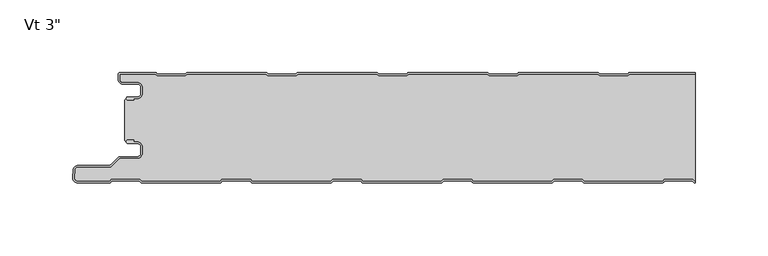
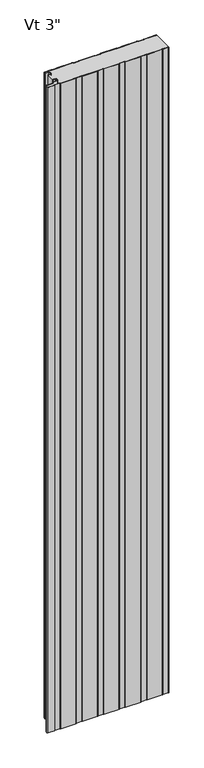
"""IFC4 building model written with IfcOpenShell, lengths in millimetres: plate geometry."""

from ifc_helpers import new_model, si_unit, point, frame, frame_2d, origin, origin_with_axes, place, context, project, spatial, polyline, circle_curve, trimmed, segment, composite_curve, outline, extrude, source, transform, mapped, element, save
from ifc_brep_helpers import plane_surface, cylinder_surface, revolved_surface, advanced_brep


def plate_2f6834ce(model_context):
    return source(origin(), model_context, "Body", "SolidModel", [
        advanced_brep(
        [(-194.5686911, -17.0015405, 2400.0), (-195.5686883, -18.0015437, 2400.0), (-194.5686911, -19.0015351, 2400.0), (-190.5684874, -19.0015351, 2400.0), (-190.5684874, -18.0015405, 2400.0), (-187.8762776, -18.0015405, 2400.0), (-184.5762819, -14.7015448, 2400.0), (-184.5762819, -10.3015536, 2400.0), (-187.8762774, -7.0015581, 2400.0), (-198.2962563, -7.0015581, 2400.0), (-200.0662505, -5.2315639, 2400.0), (-200.0662505, -1.0000163, 2400.0), (-175.5659739, -1.0000162, 2400.0), (-174.1803313, -2.2002553, 2400.0), (-154.805165, -2.2002553, 2400.0), (-153.419532, -1.0000245, 2400.0), (-99.3661167, -1.0000245, 2400.0), (-97.9804837, -2.2002552, 2400.0), (-78.6053174, -2.2002551, 2400.0), (-77.2196844, -1.0000244, 2400.0), (-23.1662691, -1.0000243, 2400.0), (-21.7806361, -2.200255, 2400.0), (-2.4054698, -2.200255, 2400.0), (-1.0198368, -1.0000243, 2400.0), (53.0335785, -1.0000242, 2400.0), (54.4192115, -2.2002549, 2400.0), (73.7943778, -2.2002548, 2400.0), (75.1800108, -1.0000241, 2400.0), (129.2334261, -1.000024, 2400.0), (130.6190591, -2.2002547, 2400.0), (149.9942254, -2.2002547, 2400.0), (151.3798584, -1.000024, 2400.0), (196.5999998, -1.0000239, 2400.0), (196.5999998, -2.39e-05, 2400.0), (151.5290095, -2.4e-05, 2400.0), (150.6123926, -0.3418125, 2400.0), (149.621345, -1.2002547, 2400.0), (130.9919395, -1.2002547, 2400.0), (130.0008919, -0.3418125, 2400.0), (129.084275, -2.4e-05, 2400.0), (75.3291619, -2.41e-05, 2400.0), (74.412545, -0.3418126, 2400.0), (73.4214974, -1.2002548, 2400.0), (54.7920919, -1.2002549, 2400.0), (53.8010443, -0.3418127, 2400.0), (52.8844274, -2.42e-05, 2400.0), (-0.8706857, -2.43e-05, 2400.0), (-1.7873026, -0.3418128, 2400.0), (-2.7783502, -1.200255, 2400.0), (-21.4077557, -1.200255, 2400.0), (-22.3988033, -0.3418128, 2400.0), (-23.3154202, -2.43e-05, 2400.0), (-77.0705333, -2.44e-05, 2400.0), (-77.9871502, -0.3418129, 2400.0), (-78.9781978, -1.2002551, 2400.0), (-97.6076033, -1.2002552, 2400.0), (-98.5986509, -0.341813, 2400.0), (-99.5152678, -2.44e-05, 2400.0), (-153.2703809, -2.45e-05, 2400.0), (-154.1869978, -0.3418131, 2400.0), (-155.1780454, -1.2002553, 2400.0), (-173.8074509, -1.2002553, 2400.0), (-174.7984985, -0.3418131, 2400.0), (-175.7152068, -2.46e-05, 2400.0), (-199.6662544, -1.63e-05, 2400.0), (-201.0662505, -1.4000124, 2400.0), (-201.0662505, -5.2315639, 2400.0), (-198.2962563, -8.0015581, 2400.0), (-187.8762774, -8.0015581, 2400.0), (-185.5762819, -10.3015536, 2400.0), (-185.5762819, -14.7015448, 2400.0), (-187.8762776, -17.0015405, 2400.0), (-194.5686911, -17.0015405, 0.0), (-187.8762776, -17.0015405, 0.0), (-185.5762819, -14.7015448, 0.0), (-185.5762819, -10.3015536, 0.0), (-187.8762774, -8.0015581, 0.0), (-198.2962563, -8.0015581, 0.0), (-201.0662505, -5.2315639, 0.0), (-201.0662505, -1.4000124, 0.0), (-199.6662544, -1.63e-05, 0.0), (-175.7151154, -1.62e-05, 0.0), (-174.7984985, -0.3418131, 0.0), (-173.8074509, -1.2002553, 0.0), (-155.1780454, -1.2002553, 0.0), (-154.1869978, -0.3418131, 0.0), (-153.2703809, -2.45e-05, 0.0), (-99.5152678, -2.45e-05, 0.0), (-98.5986509, -0.341813, 0.0), (-97.6076033, -1.2002552, 0.0), (-78.9781978, -1.2002551, 0.0), (-77.9871502, -0.3418129, 0.0), (-77.0705333, -2.44e-05, 0.0), (-23.3154202, -2.43e-05, 0.0), (-22.3988033, -0.3418128, 0.0), (-21.4077557, -1.200255, 0.0), (-2.7783502, -1.200255, 0.0), (-1.7873026, -0.3418128, 0.0), (-0.8706857, -2.43e-05, 0.0), (52.8844274, -2.42e-05, 0.0), (53.8010443, -0.3418127, 0.0), (54.7920919, -1.2002549, 0.0), (73.4214974, -1.2002548, 0.0), (74.412545, -0.3418126, 0.0), (75.3291619, -2.41e-05, 0.0), (129.084275, -2.4e-05, 0.0), (130.0008919, -0.3418125, 0.0), (130.9919395, -1.2002547, 0.0), (149.621345, -1.2002547, 0.0), (150.6123926, -0.3418125, 0.0), (151.5290095, -2.4e-05, 0.0), (196.5999998, -2.39e-05, 0.0), (196.5999998, -1.0000239, 0.0), (151.3798584, -1.000024, 0.0), (149.9942254, -2.2002547, 0.0), (130.6190591, -2.2002547, 0.0), (129.2334261, -1.000024, 0.0), (75.1800108, -1.0000241, 0.0), (73.7943778, -2.2002548, 0.0), (54.4192115, -2.2002549, 0.0), (53.0335785, -1.0000242, 0.0), (-1.0198368, -1.0000243, 0.0), (-2.4054698, -2.200255, 0.0), (-21.7806361, -2.200255, 0.0), (-23.1662691, -1.0000243, 0.0), (-77.2196844, -1.0000244, 0.0), (-78.6053174, -2.2002551, 0.0), (-97.9804837, -2.2002552, 0.0), (-99.3661167, -1.0000245, 0.0), (-153.419532, -1.0000245, 0.0), (-154.805165, -2.2002553, 0.0), (-174.1803313, -2.2002553, 0.0), (-175.5659739, -1.0000162, 0.0), (-200.0662505, -1.0000163, 0.0), (-200.0662505, -5.2315639, 0.0), (-198.2962563, -7.0015581, 0.0), (-187.8762774, -7.0015581, 0.0), (-184.5762819, -10.3015536, 0.0), (-184.5762819, -14.7015448, 0.0), (-187.8762776, -18.0015405, 0.0), (-190.5684874, -18.0015405, 0.0), (-190.5684874, -19.0015351, 0.0), (-194.5686911, -19.0015351, 0.0), (-195.5686883, -18.0015438, 0.0)],
        [
            (0, 1, circle_curve(frame((-194.5686911, -18.0015378, 2400.0), z_axis=(0.0, 0.0, 1.0), x_axis=(1.0, 1.7886562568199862e-09, 0.0)), 0.9999973)),
            (1, 2, circle_curve(frame((-194.5686911, -18.0015379, 2400.0), z_axis=(0.0, 0.0, 1.0), x_axis=(1.0, 1.7886562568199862e-09, 0.0)), 0.9999972)),
            (2, 3),
            (3, 4),
            (4, 5),
            (5, 6, circle_curve(frame((-187.8762776, -14.7015448, 2400.0), z_axis=(0.0, 0.0, 1.0), x_axis=(1.0, 1.7886562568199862e-09, 0.0)), 3.2999957)),
            (6, 7),
            (7, 8, circle_curve(frame((-187.8762774, -10.3015536, 2400.0), z_axis=(0.0, 0.0, 1.0), x_axis=(1.0, 1.7886562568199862e-09, 0.0)), 3.2999955)),
            (8, 9),
            (9, 10, circle_curve(frame((-198.2962563, -5.2315639, 2400.0), z_axis=(0.0, 0.0, -1.0), x_axis=(1.0, 1.7886562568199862e-09, 0.0)), 1.7699942)),
            (10, 11),
            (11, 12),
            (12, 13),
            (13, 14),
            (14, 15),
            (15, 16),
            (16, 17),
            (17, 18),
            (18, 19),
            (19, 20),
            (20, 21),
            (21, 22),
            (22, 23),
            (23, 24),
            (24, 25),
            (25, 26),
            (26, 27),
            (27, 28),
            (28, 29),
            (29, 30),
            (30, 31),
            (31, 32),
            (32, 33),
            (33, 34),
            (34, 35, circle_curve(frame((151.5290095, -1.4000212, 2400.0), z_axis=(0.0, 0.0, 1.0), x_axis=(1.0, 1.7886562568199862e-09, 0.0)), 1.3999972)),
            (35, 36),
            (36, 37),
            (37, 38),
            (38, 39, circle_curve(frame((129.084275, -1.4000212, 2400.0), z_axis=(0.0, 0.0, 1.0), x_axis=(1.0, 1.7886562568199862e-09, 0.0)), 1.3999972)),
            (39, 40),
            (40, 41, circle_curve(frame((75.3291619, -1.4000213, 2400.0), z_axis=(0.0, 0.0, 1.0), x_axis=(1.0, 1.7886562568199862e-09, 0.0)), 1.3999972)),
            (41, 42),
            (42, 43),
            (43, 44),
            (44, 45, circle_curve(frame((52.8844274, -1.4000214, 2400.0), z_axis=(0.0, 0.0, 1.0), x_axis=(1.0, 1.7886562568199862e-09, 0.0)), 1.3999972)),
            (45, 46),
            (46, 47, circle_curve(frame((-0.8706857, -1.4000215, 2400.0), z_axis=(0.0, 0.0, 1.0), x_axis=(1.0, 1.7886562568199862e-09, 0.0)), 1.3999972)),
            (47, 48),
            (48, 49),
            (49, 50),
            (50, 51, circle_curve(frame((-23.3154202, -1.4000215, 2400.0), z_axis=(0.0, 0.0, 1.0), x_axis=(1.0, 1.7886562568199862e-09, 0.0)), 1.3999972)),
            (51, 52),
            (52, 53, circle_curve(frame((-77.0705333, -1.4000216, 2400.0), z_axis=(0.0, 0.0, 1.0), x_axis=(1.0, 1.7886562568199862e-09, 0.0)), 1.3999972)),
            (53, 54),
            (54, 55),
            (55, 56),
            (56, 57, circle_curve(frame((-99.5152678, -1.4000216, 2400.0), z_axis=(0.0, 0.0, 1.0), x_axis=(1.0, 1.7886562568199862e-09, 0.0)), 1.3999972)),
            (57, 58),
            (58, 59, circle_curve(frame((-153.2703809, -1.4000217, 2400.0), z_axis=(0.0, 0.0, 1.0), x_axis=(1.0, 1.7886562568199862e-09, 0.0)), 1.3999972)),
            (59, 60),
            (60, 61),
            (61, 62),
            (62, 63, circle_curve(frame((-175.7151154, -1.4000218, 2400.0), z_axis=(0.0, 0.0, 1.0), x_axis=(1.0, 1.7886562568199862e-09, 0.0)), 1.3999972)),
            (63, 64),
            (64, 65, circle_curve(frame((-199.6662544, -1.4000124, 2400.0), z_axis=(0.0, 0.0, 1.0), x_axis=(1.0, 1.7886562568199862e-09, 0.0)), 1.3999962)),
            (65, 66),
            (66, 67, circle_curve(frame((-198.2962563, -5.2315639, 2400.0), z_axis=(0.0, 0.0, 1.0), x_axis=(1.0, 1.7886562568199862e-09, 0.0)), 2.7699942)),
            (67, 68),
            (68, 69, circle_curve(frame((-187.8762774, -10.3015536, 2400.0), z_axis=(0.0, 0.0, -1.0), x_axis=(1.0, 1.7886562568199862e-09, 0.0)), 2.2999955)),
            (69, 70),
            (70, 71, circle_curve(frame((-187.8762776, -14.7015448, 2400.0), z_axis=(0.0, 0.0, -1.0), x_axis=(1.0, 1.7886562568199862e-09, 0.0)), 2.2999957)),
            (71, 0),
            (72, 73),
            (73, 74, circle_curve(frame((-187.8762776, -14.7015448, 0.0), z_axis=(0.0, 0.0, 1.0), x_axis=(1.0, 1.7886562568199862e-09, 0.0)), 2.2999957)),
            (74, 75),
            (75, 76, circle_curve(frame((-187.8762774, -10.3015536, 0.0), z_axis=(0.0, 0.0, 1.0), x_axis=(1.0, 1.7886562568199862e-09, 0.0)), 2.2999955)),
            (76, 77),
            (77, 78, circle_curve(frame((-198.2962563, -5.2315639, 0.0), z_axis=(0.0, 0.0, -1.0), x_axis=(1.0, 1.7886562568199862e-09, 0.0)), 2.7699942)),
            (78, 79),
            (79, 80, circle_curve(frame((-199.6662544, -1.4000124, 0.0), z_axis=(0.0, 0.0, -1.0), x_axis=(1.0, 1.7886562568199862e-09, 0.0)), 1.3999962)),
            (80, 81),
            (81, 82, circle_curve(frame((-175.7151154, -1.4000218, 0.0), z_axis=(0.0, 0.0, -1.0), x_axis=(1.0, 1.7886562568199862e-09, 0.0)), 1.3999972)),
            (82, 83),
            (83, 84),
            (84, 85),
            (85, 86, circle_curve(frame((-153.2703809, -1.4000217, 0.0), z_axis=(0.0, 0.0, -1.0), x_axis=(1.0, 1.7886562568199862e-09, 0.0)), 1.3999972)),
            (86, 87),
            (87, 88, circle_curve(frame((-99.5152678, -1.4000216, 0.0), z_axis=(0.0, 0.0, -1.0), x_axis=(1.0, 1.7886562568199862e-09, 0.0)), 1.3999972)),
            (88, 89),
            (89, 90),
            (90, 91),
            (91, 92, circle_curve(frame((-77.0705333, -1.4000216, 0.0), z_axis=(0.0, 0.0, -1.0), x_axis=(1.0, 1.7886562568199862e-09, 0.0)), 1.3999972)),
            (92, 93),
            (93, 94, circle_curve(frame((-23.3154202, -1.4000215, 0.0), z_axis=(0.0, 0.0, -1.0), x_axis=(1.0, 1.7886562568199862e-09, 0.0)), 1.3999972)),
            (94, 95),
            (95, 96),
            (96, 97),
            (97, 98, circle_curve(frame((-0.8706857, -1.4000215, 0.0), z_axis=(0.0, 0.0, -1.0), x_axis=(1.0, 1.7886562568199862e-09, 0.0)), 1.3999972)),
            (98, 99),
            (99, 100, circle_curve(frame((52.8844274, -1.4000214, 0.0), z_axis=(0.0, 0.0, -1.0), x_axis=(1.0, 1.7886562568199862e-09, 0.0)), 1.3999972)),
            (100, 101),
            (101, 102),
            (102, 103),
            (103, 104, circle_curve(frame((75.3291619, -1.4000213, 0.0), z_axis=(0.0, 0.0, -1.0), x_axis=(1.0, 1.7886562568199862e-09, 0.0)), 1.3999972)),
            (104, 105),
            (105, 106, circle_curve(frame((129.084275, -1.4000212, 0.0), z_axis=(0.0, 0.0, -1.0), x_axis=(1.0, 1.7886562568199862e-09, 0.0)), 1.3999972)),
            (106, 107),
            (107, 108),
            (108, 109),
            (109, 110, circle_curve(frame((151.5290095, -1.4000212, 0.0), z_axis=(0.0, 0.0, -1.0), x_axis=(1.0, 1.7886562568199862e-09, 0.0)), 1.3999972)),
            (110, 111),
            (111, 112),
            (112, 113),
            (113, 114),
            (114, 115),
            (115, 116),
            (116, 117),
            (117, 118),
            (118, 119),
            (119, 120),
            (120, 121),
            (121, 122),
            (122, 123),
            (123, 124),
            (124, 125),
            (125, 126),
            (126, 127),
            (127, 128),
            (128, 129),
            (129, 130),
            (130, 131),
            (131, 132),
            (132, 133),
            (133, 134),
            (134, 135, circle_curve(frame((-198.2962563, -5.2315639, 0.0), z_axis=(0.0, 0.0, 1.0), x_axis=(1.0, 1.7886562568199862e-09, 0.0)), 1.7699942)),
            (135, 136),
            (136, 137, circle_curve(frame((-187.8762774, -10.3015536, 0.0), z_axis=(0.0, 0.0, -1.0), x_axis=(1.0, 1.7886562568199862e-09, 0.0)), 3.2999955)),
            (137, 138),
            (138, 139, circle_curve(frame((-187.8762776, -14.7015448, 0.0), z_axis=(0.0, 0.0, -1.0), x_axis=(1.0, 1.7886562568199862e-09, 0.0)), 3.2999957)),
            (139, 140),
            (140, 141),
            (141, 142),
            (142, 143, circle_curve(frame((-194.5686911, -18.0015379, 0.0), z_axis=(0.0, 0.0, -1.0), x_axis=(1.0, 1.7886562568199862e-09, 0.0)), 0.9999972)),
            (143, 72, circle_curve(frame((-194.5686911, -18.0015378, 0.0), z_axis=(0.0, 0.0, -1.0), x_axis=(1.0, 1.7886562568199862e-09, 0.0)), 0.9999973)),
            (32, 112),
            (111, 33),
            (71, 73),
            (72, 0),
            (70, 74),
            (69, 75),
            (68, 76),
            (67, 77),
            (66, 78),
            (65, 79),
            (64, 80),
            (63, 81),
            (62, 82),
            (61, 83),
            (60, 84),
            (59, 85),
            (58, 86),
            (57, 87),
            (56, 88),
            (55, 89),
            (54, 90),
            (53, 91),
            (52, 92),
            (51, 93),
            (50, 94),
            (49, 95),
            (48, 96),
            (47, 97),
            (46, 98),
            (45, 99),
            (44, 100),
            (43, 101),
            (42, 102),
            (41, 103),
            (40, 104),
            (39, 105),
            (38, 106),
            (37, 107),
            (36, 108),
            (35, 109),
            (34, 110),
            (31, 113),
            (30, 114),
            (29, 115),
            (28, 116),
            (27, 117),
            (26, 118),
            (25, 119),
            (24, 120),
            (23, 121),
            (22, 122),
            (21, 123),
            (20, 124),
            (19, 125),
            (18, 126),
            (17, 127),
            (16, 128),
            (15, 129),
            (14, 130),
            (13, 131),
            (12, 132),
            (11, 133),
            (10, 134),
            (9, 135),
            (8, 136),
            (7, 137),
            (6, 138),
            (5, 139),
            (4, 140),
            (3, 141),
            (2, 142),
            (1, 143),
        ],
        [
            plane_surface(frame((336.8000001, -2.37e-05, 2400.0), z_axis=(0.0, 0.0, 1.0), x_axis=(-1.7886562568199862e-09, 1.0, 0.0))),
            plane_surface(frame((336.8000001, -2.37e-05, 0.0), z_axis=(0.0, 0.0, -1.0), x_axis=(-1.7886562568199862e-09, 1.0, 0.0))),
            plane_surface(frame((196.5999999, -86.2000239, 2400.0), z_axis=(1.0, 1.7886562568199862e-09, 0.0), x_axis=(0.0, 0.0, -1.0))),
            plane_surface(frame((-194.5686911, -17.0015405, 2400.0), z_axis=(-1.7886562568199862e-09, 1.0, 0.0), x_axis=(0.0, 0.0, -1.0))),
            revolved_surface(polyline([(-185.5762819, -14.701544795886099, 0.0), (-185.5762819, -14.701544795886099, 2400.0)]), (-187.8762776, -14.7015448, 2400.0), (0.0, 0.0, -1.0)),
            plane_surface(frame((-185.5762819, -14.7015448, 2400.0), z_axis=(-1.0, -1.7886562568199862e-09, 0.0), x_axis=(0.0, 0.0, -1.0))),
            revolved_surface(polyline([(-185.5762819, -10.301553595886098, 0.0), (-185.5762819, -10.301553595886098, 2400.0)]), (-187.8762774, -10.3015536, 2400.0), (0.0, 0.0, -1.0)),
            plane_surface(frame((-187.8762774, -8.0015581, 2400.0), z_axis=(1.7886562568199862e-09, -1.0, 0.0), x_axis=(0.0, 0.0, -1.0))),
            cylinder_surface(frame((-198.2962563, -5.2315639, 2400.0), z_axis=(0.0, 0.0, 1.0), x_axis=(1.0, 1.7886562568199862e-09, 0.0)), 2.7699942),
            plane_surface(frame((-201.0662505, -5.2315639, 2400.0), z_axis=(-1.0, -1.7886562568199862e-09, 0.0), x_axis=(0.0, 0.0, -1.0))),
            cylinder_surface(frame((-199.6662544, -1.4000124, 2400.0), z_axis=(0.0, 0.0, 1.0), x_axis=(1.0, 1.7886562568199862e-09, 0.0)), 1.3999962),
            plane_surface(frame((-199.6662544, -1.63e-05, 2400.0), z_axis=(-1.7886562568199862e-09, 1.0, 0.0), x_axis=(0.0, 0.0, -1.0))),
            cylinder_surface(frame((-175.7151154, -1.4000218, 2400.0), z_axis=(0.0, 0.0, 1.0), x_axis=(1.0, 1.7886562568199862e-09, 0.0)), 1.3999972),
            plane_surface(frame((-174.7984985, -0.3418131, 2400.0), z_axis=(0.6547276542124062, 0.7558648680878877, 0.0), x_axis=(0.0, 0.0, -1.0))),
            plane_surface(frame((-164.4927482, -1.2002553, 2400.0), z_axis=(-1.7886562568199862e-09, 1.0, 0.0), x_axis=(0.0, 0.0, -1.0))),
            plane_surface(frame((-155.1780454, -1.2002553, 2400.0), z_axis=(-0.654727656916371, 0.7558648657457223, 0.0), x_axis=(0.0, 0.0, -1.0))),
            cylinder_surface(frame((-153.2703809, -1.4000217, 2400.0), z_axis=(0.0, 0.0, 1.0), x_axis=(1.0, 1.7886562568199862e-09, 0.0)), 1.3999972),
            plane_surface(frame((-153.2703809, -2.45e-05, 2400.0), z_axis=(-1.7886512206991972e-09, 1.0, 0.0), x_axis=(0.0, 0.0, -1.0))),
            cylinder_surface(frame((-99.5152678, -1.4000216, 2400.0), z_axis=(0.0, 0.0, 1.0), x_axis=(1.0, 1.7886562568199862e-09, 0.0)), 1.3999972),
            plane_surface(frame((-98.5986509, -0.341813, 2400.0), z_axis=(0.6547276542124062, 0.7558648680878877, 0.0), x_axis=(0.0, 0.0, -1.0))),
            plane_surface(frame((-88.2929006, -1.2002551, 2400.0), z_axis=(-1.7886562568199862e-09, 1.0, 0.0), x_axis=(0.0, 0.0, -1.0))),
            plane_surface(frame((-78.9781978, -1.2002551, 2400.0), z_axis=(-0.654727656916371, 0.7558648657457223, 0.0), x_axis=(0.0, 0.0, -1.0))),
            cylinder_surface(frame((-77.0705333, -1.4000216, 2400.0), z_axis=(0.0, 0.0, 1.0), x_axis=(1.0, 1.7886562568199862e-09, 0.0)), 1.3999972),
            plane_surface(frame((-77.0705333, -2.44e-05, 2400.0), z_axis=(-1.7886512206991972e-09, 1.0, 0.0), x_axis=(0.0, 0.0, -1.0))),
            cylinder_surface(frame((-23.3154202, -1.4000215, 2400.0), z_axis=(0.0, 0.0, 1.0), x_axis=(1.0, 1.7886562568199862e-09, 0.0)), 1.3999972),
            plane_surface(frame((-22.3988033, -0.3418128, 2400.0), z_axis=(0.6547276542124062, 0.7558648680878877, 0.0), x_axis=(0.0, 0.0, -1.0))),
            plane_surface(frame((-12.093053, -1.200255, 2400.0), z_axis=(-1.7886562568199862e-09, 1.0, 0.0), x_axis=(0.0, 0.0, -1.0))),
            plane_surface(frame((-2.7783502, -1.200255, 2400.0), z_axis=(-0.654727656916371, 0.7558648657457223, 0.0), x_axis=(0.0, 0.0, -1.0))),
            cylinder_surface(frame((-0.8706857, -1.4000215, 2400.0), z_axis=(0.0, 0.0, 1.0), x_axis=(1.0, 1.7886562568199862e-09, 0.0)), 1.3999972),
            plane_surface(frame((-0.8706857, -2.43e-05, 2400.0), z_axis=(-1.7886512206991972e-09, 1.0, 0.0), x_axis=(0.0, 0.0, -1.0))),
            cylinder_surface(frame((52.8844274, -1.4000214, 2400.0), z_axis=(0.0, 0.0, 1.0), x_axis=(1.0, 1.7886562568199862e-09, 0.0)), 1.3999972),
            plane_surface(frame((53.8010443, -0.3418127, 2400.0), z_axis=(0.6547276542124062, 0.7558648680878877, 0.0), x_axis=(0.0, 0.0, -1.0))),
            plane_surface(frame((64.1067946, -1.2002549, 2400.0), z_axis=(-1.7886562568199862e-09, 1.0, 0.0), x_axis=(0.0, 0.0, -1.0))),
            plane_surface(frame((73.4214974, -1.2002548, 2400.0), z_axis=(-0.654727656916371, 0.7558648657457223, 0.0), x_axis=(0.0, 0.0, -1.0))),
            cylinder_surface(frame((75.3291619, -1.4000213, 2400.0), z_axis=(0.0, 0.0, 1.0), x_axis=(1.0, 1.7886562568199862e-09, 0.0)), 1.3999972),
            plane_surface(frame((75.3291619, -2.41e-05, 2400.0), z_axis=(-1.7886512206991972e-09, 1.0, 0.0), x_axis=(0.0, 0.0, -1.0))),
            cylinder_surface(frame((129.084275, -1.4000212, 2400.0), z_axis=(0.0, 0.0, 1.0), x_axis=(1.0, 1.7886562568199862e-09, 0.0)), 1.3999972),
            plane_surface(frame((130.0008919, -0.3418125, 2400.0), z_axis=(0.6547276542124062, 0.7558648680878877, 0.0), x_axis=(0.0, 0.0, -1.0))),
            plane_surface(frame((140.3066422, -1.2002547, 2400.0), z_axis=(-1.7886562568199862e-09, 1.0, 0.0), x_axis=(0.0, 0.0, -1.0))),
            plane_surface(frame((149.621345, -1.2002547, 2400.0), z_axis=(-0.654727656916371, 0.7558648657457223, 0.0), x_axis=(0.0, 0.0, -1.0))),
            cylinder_surface(frame((151.5290095, -1.4000212, 2400.0), z_axis=(0.0, 0.0, 1.0), x_axis=(1.0, 1.7886562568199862e-09, 0.0)), 1.3999972),
            plane_surface(frame((151.5290095, -2.4e-05, 2400.0), z_axis=(-1.7886512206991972e-09, 1.0, 0.0), x_axis=(0.0, 0.0, -1.0))),
            plane_surface(frame((205.4332737, -1.0000239, 2400.0), z_axis=(1.7886512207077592e-09, -1.0, 0.0), x_axis=(0.0, 0.0, -1.0))),
            plane_surface(frame((151.3798584, -1.000024, 2400.0), z_axis=(0.654727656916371, -0.7558648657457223, 0.0), x_axis=(0.0, 0.0, -1.0))),
            plane_surface(frame((149.9942254, -2.2002547, 2400.0), z_axis=(1.7886562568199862e-09, -1.0, 0.0), x_axis=(0.0, 0.0, -1.0))),
            plane_surface(frame((130.6190591, -2.2002547, 2400.0), z_axis=(-0.6547276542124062, -0.7558648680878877, 0.0), x_axis=(0.0, 0.0, -1.0))),
            plane_surface(frame((129.2334261, -1.000024, 2400.0), z_axis=(1.7886512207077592e-09, -1.0, 0.0), x_axis=(0.0, 0.0, -1.0))),
            plane_surface(frame((75.1800108, -1.0000241, 2400.0), z_axis=(0.654727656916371, -0.7558648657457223, 0.0), x_axis=(0.0, 0.0, -1.0))),
            plane_surface(frame((73.7943778, -2.2002548, 2400.0), z_axis=(1.7886562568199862e-09, -1.0, 0.0), x_axis=(0.0, 0.0, -1.0))),
            plane_surface(frame((54.4192115, -2.2002549, 2400.0), z_axis=(-0.6547276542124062, -0.7558648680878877, 0.0), x_axis=(0.0, 0.0, -1.0))),
            plane_surface(frame((53.0335785, -1.0000242, 2400.0), z_axis=(1.7886512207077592e-09, -1.0, 0.0), x_axis=(0.0, 0.0, -1.0))),
            plane_surface(frame((-1.0198368, -1.0000243, 2400.0), z_axis=(0.654727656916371, -0.7558648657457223, 0.0), x_axis=(0.0, 0.0, -1.0))),
            plane_surface(frame((-2.4054698, -2.200255, 2400.0), z_axis=(1.7886562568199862e-09, -1.0, 0.0), x_axis=(0.0, 0.0, -1.0))),
            plane_surface(frame((-21.7806361, -2.200255, 2400.0), z_axis=(-0.6547276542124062, -0.7558648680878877, 0.0), x_axis=(0.0, 0.0, -1.0))),
            plane_surface(frame((-23.1662691, -1.0000243, 2400.0), z_axis=(1.7886512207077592e-09, -1.0, 0.0), x_axis=(0.0, 0.0, -1.0))),
            plane_surface(frame((-77.2196844, -1.0000244, 2400.0), z_axis=(0.654727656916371, -0.7558648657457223, 0.0), x_axis=(0.0, 0.0, -1.0))),
            plane_surface(frame((-78.6053174, -2.2002551, 2400.0), z_axis=(1.7886562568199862e-09, -1.0, 0.0), x_axis=(0.0, 0.0, -1.0))),
            plane_surface(frame((-97.9804837, -2.2002552, 2400.0), z_axis=(-0.6547276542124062, -0.7558648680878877, 0.0), x_axis=(0.0, 0.0, -1.0))),
            plane_surface(frame((-99.3661167, -1.0000245, 2400.0), z_axis=(1.7886512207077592e-09, -1.0, 0.0), x_axis=(0.0, 0.0, -1.0))),
            plane_surface(frame((-153.419532, -1.0000245, 2400.0), z_axis=(0.654727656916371, -0.7558648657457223, 0.0), x_axis=(0.0, 0.0, -1.0))),
            plane_surface(frame((-154.805165, -2.2002553, 2400.0), z_axis=(1.7886562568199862e-09, -1.0, 0.0), x_axis=(0.0, 0.0, -1.0))),
            plane_surface(frame((-174.1803313, -2.2002553, 2400.0), z_axis=(-0.6547276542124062, -0.7558648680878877, 0.0), x_axis=(0.0, 0.0, -1.0))),
            plane_surface(frame((-175.5659739, -1.0000162, 2400.0), z_axis=(1.7886562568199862e-09, -1.0, 0.0), x_axis=(0.0, 0.0, -1.0))),
            plane_surface(frame((-200.0662505, -1.0000163, 2400.0), z_axis=(1.0, 1.7886562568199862e-09, 0.0), x_axis=(0.0, 0.0, -1.0))),
            revolved_surface(polyline([(-196.5262621, -5.231563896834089, 0.0), (-196.5262621, -5.231563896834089, 2400.0)]), (-198.2962563, -5.2315639, 2400.0), (0.0, 0.0, -1.0)),
            plane_surface(frame((-198.2962563, -7.0015581, 2400.0), z_axis=(-1.7886562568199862e-09, 1.0, 0.0), x_axis=(0.0, 0.0, -1.0))),
            cylinder_surface(frame((-187.8762774, -10.3015536, 2400.0), z_axis=(0.0, 0.0, 1.0), x_axis=(1.0, 1.7886562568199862e-09, 0.0)), 3.2999955),
            plane_surface(frame((-184.5762819, -10.3015536, 2400.0), z_axis=(1.0, 1.7886562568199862e-09, 0.0), x_axis=(0.0, 0.0, -1.0))),
            cylinder_surface(frame((-187.8762776, -14.7015448, 2400.0), z_axis=(0.0, 0.0, 1.0), x_axis=(1.0, 1.7886562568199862e-09, 0.0)), 3.2999957),
            plane_surface(frame((-187.8762776, -18.0015405, 2400.0), z_axis=(1.7886562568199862e-09, -1.0, 0.0), x_axis=(0.0, 0.0, -1.0))),
            plane_surface(frame((-190.5684874, -18.0015405, 2400.0), z_axis=(1.0, 1.7886562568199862e-09, 0.0), x_axis=(0.0, 0.0, -1.0))),
            plane_surface(frame((-190.5684874, -19.0015351, 2400.0), z_axis=(1.7886562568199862e-09, -1.0, 0.0), x_axis=(0.0, 0.0, -1.0))),
            cylinder_surface(frame((-194.5686911, -18.0015379, 2400.0), z_axis=(0.0, 0.0, 1.0), x_axis=(1.0, 1.7886562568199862e-09, 0.0)), 0.9999972),
            cylinder_surface(frame((-194.5686911, -18.0015378, 2400.0), z_axis=(0.0, 0.0, 1.0), x_axis=(1.0, 1.7886562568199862e-09, 0.0)), 0.9999973),
        ],
        [
            (0, [[1, 2, 3, 4, 5, 6, 7, 8, 9, 10, 11, 12, 13, 14, 15, 16, 17, 18, 19, 20, 21, 22, 23, 24, 25, 26, 27, 28, 29, 30, 31, 32, 33, 34, 35, 36, 37, 38, 39, 40, 41, 42, 43, 44, 45, 46, 47, 48, 49, 50, 51, 52, 53, 54, 55, 56, 57, 58, 59, 60, 61, 62, 63, 64, 65, 66, 67, 68, 69, 70, 71, 72]]),
            (1, [[73, 74, 75, 76, 77, 78, 79, 80, 81, 82, 83, 84, 85, 86, 87, 88, 89, 90, 91, 92, 93, 94, 95, 96, 97, 98, 99, 100, 101, 102, 103, 104, 105, 106, 107, 108, 109, 110, 111, 112, 113, 114, 115, 116, 117, 118, 119, 120, 121, 122, 123, 124, 125, 126, 127, 128, 129, 130, 131, 132, 133, 134, 135, 136, 137, 138, 139, 140, 141, 142, 143, 144]]),
            (2, [[145, -112, 146, -33]]),
            (3, [[147, -73, 148, -72]]),
            (4, [[149, -74, -147, -71]]),
            (5, [[150, -75, -149, -70]]),
            (6, [[151, -76, -150, -69]]),
            (7, [[152, -77, -151, -68]]),
            (8, [[153, -78, -152, -67]]),
            (9, [[154, -79, -153, -66]]),
            (10, [[155, -80, -154, -65]]),
            (11, [[156, -81, -155, -64]]),
            (12, [[157, -82, -156, -63]]),
            (13, [[158, -83, -157, -62]]),
            (14, [[159, -84, -158, -61]]),
            (15, [[160, -85, -159, -60]]),
            (16, [[161, -86, -160, -59]]),
            (17, [[162, -87, -161, -58]]),
            (18, [[163, -88, -162, -57]]),
            (19, [[164, -89, -163, -56]]),
            (20, [[165, -90, -164, -55]]),
            (21, [[166, -91, -165, -54]]),
            (22, [[167, -92, -166, -53]]),
            (23, [[168, -93, -167, -52]]),
            (24, [[169, -94, -168, -51]]),
            (25, [[170, -95, -169, -50]]),
            (26, [[171, -96, -170, -49]]),
            (27, [[172, -97, -171, -48]]),
            (28, [[173, -98, -172, -47]]),
            (29, [[174, -99, -173, -46]]),
            (30, [[175, -100, -174, -45]]),
            (31, [[176, -101, -175, -44]]),
            (32, [[177, -102, -176, -43]]),
            (33, [[178, -103, -177, -42]]),
            (34, [[179, -104, -178, -41]]),
            (35, [[180, -105, -179, -40]]),
            (36, [[181, -106, -180, -39]]),
            (37, [[182, -107, -181, -38]]),
            (38, [[183, -108, -182, -37]]),
            (39, [[184, -109, -183, -36]]),
            (40, [[185, -110, -184, -35]]),
            (41, [[-34, -146, -111, -185]]),
            (42, [[-113, -145, -32, 186]]),
            (43, [[187, -114, -186, -31]]),
            (44, [[188, -115, -187, -30]]),
            (45, [[189, -116, -188, -29]]),
            (46, [[190, -117, -189, -28]]),
            (47, [[191, -118, -190, -27]]),
            (48, [[192, -119, -191, -26]]),
            (49, [[193, -120, -192, -25]]),
            (50, [[194, -121, -193, -24]]),
            (51, [[195, -122, -194, -23]]),
            (52, [[196, -123, -195, -22]]),
            (53, [[197, -124, -196, -21]]),
            (54, [[198, -125, -197, -20]]),
            (55, [[199, -126, -198, -19]]),
            (56, [[200, -127, -199, -18]]),
            (57, [[201, -128, -200, -17]]),
            (58, [[202, -129, -201, -16]]),
            (59, [[203, -130, -202, -15]]),
            (60, [[204, -131, -203, -14]]),
            (61, [[205, -132, -204, -13]]),
            (62, [[206, -133, -205, -12]]),
            (63, [[207, -134, -206, -11]]),
            (64, [[208, -135, -207, -10]]),
            (65, [[209, -136, -208, -9]]),
            (66, [[210, -137, -209, -8]]),
            (67, [[211, -138, -210, -7]]),
            (68, [[212, -139, -211, -6]]),
            (69, [[213, -140, -212, -5]]),
            (70, [[214, -141, -213, -4]]),
            (71, [[215, -142, -214, -3]]),
            (72, [[216, -143, -215, -2]]),
            (73, [[-148, -144, -216, -1]]),
        ],
    ),
        extrude(outline(composite_curve([segment(polyline([(-207.2415932, -76.2006641), (-229.0521174, -76.2006641)]), True, "CONTINUOUS"), segment(trimmed(circle_curve(frame_2d((-229.0521174, -72.6304248)), 3.5702393), [point((-229.0521174, -76.2006641))], [point((-232.6087618, -72.3191544))], False, "CARTESIAN"), True, "CONTINUOUS"), segment(polyline([(-232.6087618, -72.3191544), (-232.1690673, -67.2951078)]), True, "CONTINUOUS"), segment(trimmed(circle_curve(frame_2d((-228.519839, -67.9059089)), 3.6999926), [point((-232.1690673, -67.2951078))], [point((-228.519839, -64.2059163))], False, "CARTESIAN"), True, "CONTINUOUS"), segment(polyline([(-228.519839, -64.2059163), (-207.3773995, -64.2059163)]), True, "CONTINUOUS"), segment(trimmed(circle_curve(frame_2d((-207.3773995, -62.9059189)), 1.2999974), [point((-207.3773995, -64.2059163))], [point((-206.4581625, -63.8251558))], True, "CARTESIAN"), True, "CONTINUOUS"), segment(polyline([(-206.4581625, -63.8251558), (-201.6297451, -58.9967384)]), True, "CONTINUOUS"), segment(trimmed(circle_curve(frame_2d((-199.7205606, -60.9059229)), 2.6999946), [point((-201.6297451, -58.9967384))], [point((-199.7205606, -58.2059283))], False, "CARTESIAN"), True, "CONTINUOUS"), segment(polyline([(-199.7205606, -58.2059283), (-187.9096715, -58.2059282)]), True, "CONTINUOUS"), segment(trimmed(circle_curve(frame_2d((-187.9096715, -55.8559329)), 2.3499953), [point((-187.9096715, -58.2059282))], [point((-185.5596762, -55.8559329))], True, "CARTESIAN"), True, "CONTINUOUS"), segment(polyline([(-185.5596762, -55.8559329), (-185.5596762, -51.4559417)]), True, "CONTINUOUS"), segment(trimmed(circle_curve(frame_2d((-187.9096715, -51.4559417)), 2.3499953), [point((-185.5596762, -51.4559417))], [point((-187.9096715, -49.1059464))], True, "CARTESIAN"), True, "CONTINUOUS"), segment(polyline([(-187.9096715, -49.1059464), (-194.4289777, -49.1059464)]), True, "CONTINUOUS"), segment(trimmed(circle_curve(frame_2d((-194.3686906, -47.9074642)), 1.1999976), [point((-194.4289777, -49.1059464))], [point((-195.5683, -47.8769423))], False, "CARTESIAN"), True, "CONTINUOUS"), segment(trimmed(circle_curve(frame_2d((-194.3686906, -47.9074642)), 1.1999976), [point((-195.5683, -47.8769423))], [point((-194.367176, -46.7074676))], False, "CARTESIAN"), True, "CONTINUOUS"), segment(polyline([(-194.367176, -46.7074676), (-190.6087826, -46.7074675), (-190.6087826, -48.1059464), (-187.9096715, -48.1059464)]), True, "CONTINUOUS"), segment(trimmed(circle_curve(frame_2d((-187.9096715, -51.4559417)), 3.3499953), [point((-187.9096715, -48.1059464))], [point((-184.5596762, -51.4559417))], False, "CARTESIAN"), True, "CONTINUOUS"), segment(polyline([(-184.5596762, -51.4559417), (-184.5596762, -55.8559329)]), True, "CONTINUOUS"), segment(trimmed(circle_curve(frame_2d((-187.9096715, -55.8559329)), 3.3499953), [point((-184.5596762, -55.8559329))], [point((-187.9096715, -59.2059282))], False, "CARTESIAN"), True, "CONTINUOUS"), segment(polyline([(-187.9096715, -59.2059282), (-199.7205606, -59.2059283)]), True, "CONTINUOUS"), segment(trimmed(circle_curve(frame_2d((-199.7205606, -60.9059229)), 1.6999946), [point((-199.7205606, -59.2059283))], [point((-200.9226383, -59.7038452))], True, "CARTESIAN"), True, "CONTINUOUS"), segment(polyline([(-200.9226383, -59.7038452), (-206.4247094, -65.2059163), (-228.519839, -65.2059163)]), True, "CONTINUOUS"), segment(trimmed(circle_curve(frame_2d((-228.519839, -67.9059089)), 2.6999926), [point((-228.519839, -65.2059163))], [point((-231.1765707, -67.4245183))], True, "CARTESIAN"), True, "CONTINUOUS"), segment(polyline([(-231.1765707, -67.4245183), (-231.6125697, -72.4063392)]), True, "CONTINUOUS"), segment(trimmed(circle_curve(frame_2d((-229.0521174, -72.6304248)), 2.5702393), [point((-231.6125697, -72.4063392))], [point((-229.0521174, -75.2006641))], True, "CARTESIAN"), True, "CONTINUOUS"), segment(polyline([(-229.0521174, -75.2006641), (-207.079096, -75.2006641), (-205.8791275, -74.0006955), (-186.1597149, -74.0006955), (-184.9594842, -75.2009262), (-130.8793525, -75.2009261), (-129.6791218, -74.0006954), (-109.9597093, -74.0006954), (-108.7594785, -75.2009261), (-54.6793468, -75.200926), (-53.4791161, -74.0006953), (-33.7597036, -74.0006952), (-32.5594729, -75.2009259), (21.5206589, -75.2009258), (22.7208896, -74.0006951), (42.4403021, -74.0006951), (43.6405328, -75.2009258), (97.7206646, -75.2009257), (98.9208953, -74.000695), (118.6403078, -74.000695), (119.8405385, -75.2009257), (173.9206703, -75.2009256), (175.120901, -74.0006949), (194.8403135, -74.0006948), (196.0405442, -75.2009255), (196.5999999, -75.2009255), (196.5999999, -76.2009255), (196.2099792, -76.2009255)]), True, "CONTINUOUS"), segment(trimmed(circle_curve(frame_2d((196.2023259, -74.8009492)), 1.3999972), [point((196.2099792, -76.2009255))], [point((195.1582751, -75.7336604))], False, "CARTESIAN"), True, "CONTINUOUS"), segment(polyline([(195.1582751, -75.7336604), (194.4253095, -75.0006948), (175.5346403, -75.0006949), (174.8016956, -75.7336395)]), True, "CONTINUOUS"), segment(trimmed(circle_curve(frame_2d((173.7576448, -74.8009284)), 1.3999972), [point((174.8016956, -75.7336395))], [point((173.7576448, -76.2009256))], False, "CARTESIAN"), True, "CONTINUOUS"), segment(polyline([(173.7576448, -76.2009256), (120.0101316, -76.2009257)]), True, "CONTINUOUS"), segment(trimmed(circle_curve(frame_2d((120.0024783, -74.8009494)), 1.3999972), [point((120.0101316, -76.2009257))], [point((118.9584275, -75.7336605))], False, "CARTESIAN"), True, "CONTINUOUS"), segment(polyline([(118.9584275, -75.7336605), (118.2254619, -75.000695), (99.3347927, -75.000695), (98.601848, -75.7336397)]), True, "CONTINUOUS"), segment(trimmed(circle_curve(frame_2d((97.5577972, -74.8009285)), 1.3999972), [point((98.601848, -75.7336397))], [point((97.5577972, -76.2009257))], False, "CARTESIAN"), True, "CONTINUOUS"), segment(polyline([(97.5577972, -76.2009257), (43.810284, -76.2009258)]), True, "CONTINUOUS"), segment(trimmed(circle_curve(frame_2d((43.8026307, -74.8009495)), 1.3999972), [point((43.810284, -76.2009258))], [point((42.7585799, -75.7336607))], False, "CARTESIAN"), True, "CONTINUOUS"), segment(polyline([(42.7585799, -75.7336607), (42.0256143, -75.0006951), (23.1349451, -75.0006951), (22.4020004, -75.7336398)]), True, "CONTINUOUS"), segment(trimmed(circle_curve(frame_2d((21.3579496, -74.8009286)), 1.3999972), [point((22.4020004, -75.7336398))], [point((21.3579496, -76.2009258))], False, "CARTESIAN"), True, "CONTINUOUS"), segment(polyline([(21.3579496, -76.2009258), (-32.3895636, -76.2009259)]), True, "CONTINUOUS"), segment(trimmed(circle_curve(frame_2d((-32.3972169, -74.8009496)), 1.3999972), [point((-32.3895636, -76.2009259))], [point((-33.4412677, -75.7336608))], False, "CARTESIAN"), True, "CONTINUOUS"), segment(polyline([(-33.4412677, -75.7336608), (-34.1742333, -75.0006952), (-53.0649025, -75.0006953), (-53.7978472, -75.7336399)]), True, "CONTINUOUS"), segment(trimmed(circle_curve(frame_2d((-54.841898, -74.8009288)), 1.3999972), [point((-53.7978472, -75.7336399))], [point((-54.841898, -76.200926))], False, "CARTESIAN"), True, "CONTINUOUS"), segment(polyline([(-54.841898, -76.200926), (-108.5894112, -76.2009261)]), True, "CONTINUOUS"), segment(trimmed(circle_curve(frame_2d((-108.5970645, -74.8009498)), 1.3999972), [point((-108.5894112, -76.2009261))], [point((-109.6411153, -75.7336609))], False, "CARTESIAN"), True, "CONTINUOUS"), segment(polyline([(-109.6411153, -75.7336609), (-110.3740809, -75.0006954), (-129.2647501, -75.0006954), (-129.9976948, -75.7336401)]), True, "CONTINUOUS"), segment(trimmed(circle_curve(frame_2d((-131.0417456, -74.8009289)), 1.3999972), [point((-129.9976948, -75.7336401))], [point((-131.0417456, -76.2009261))], False, "CARTESIAN"), True, "CONTINUOUS"), segment(polyline([(-131.0417456, -76.2009261), (-184.7892588, -76.2009262)]), True, "CONTINUOUS"), segment(trimmed(circle_curve(frame_2d((-184.7969121, -74.8009499)), 1.3999972), [point((-184.7892588, -76.2009262))], [point((-185.8409629, -75.7336611))], False, "CARTESIAN"), True, "CONTINUOUS"), segment(polyline([(-185.8409629, -75.7336611), (-186.5739285, -75.0006955), (-205.4649139, -75.0006955), (-206.1976401, -75.7334218)]), True, "CONTINUOUS"), segment(trimmed(circle_curve(frame_2d((-207.2415932, -74.800798)), 1.3998661), [point((-206.1976401, -75.7334218))], [point((-207.2415932, -76.2006641))], False, "CARTESIAN"), True, "CONTINUOUS")], self_intersect=False)), origin_with_axes(), (0.0, 0.0, 1.0), 2400.0),
        extrude(outline(composite_curve([segment(polyline([(-195.5683, -47.8708996), (-196.5999998, -46.8391997), (-196.5999998, -19.0328554), (-195.5686882, -18.0015438)]), True, "CONTINUOUS"), segment(trimmed(circle_curve(frame_2d((-194.568691, -18.0015379)), 0.9999972), [point((-195.5686882, -18.0015438))], [point((-194.568691, -19.0015351))], True, "CARTESIAN"), True, "CONTINUOUS"), segment(polyline([(-194.568691, -19.0015351), (-190.5684874, -19.0015351), (-190.5684874, -18.0015405), (-187.8762776, -18.0015405)]), True, "CONTINUOUS"), segment(trimmed(circle_curve(frame_2d((-187.8762776, -14.7015448)), 3.2999957), [point((-187.8762776, -18.0015405))], [point((-184.5762819, -14.7015448))], True, "CARTESIAN"), True, "CONTINUOUS"), segment(polyline([(-184.5762819, -14.7015448), (-184.5762819, -10.3015536)]), True, "CONTINUOUS"), segment(trimmed(circle_curve(frame_2d((-187.8762778, -10.3015536)), 3.2999959), [point((-184.5762819, -10.3015536))], [point((-187.8762778, -7.0015577))], True, "CARTESIAN"), True, "CONTINUOUS"), segment(polyline([(-187.8762778, -7.0015577), (-198.2962563, -7.0015578)]), True, "CONTINUOUS"), segment(trimmed(circle_curve(frame_2d((-198.2962563, -5.2315636)), 1.7699942), [point((-198.2962563, -7.0015578))], [point((-200.0662505, -5.2315636))], False, "CARTESIAN"), True, "CONTINUOUS"), segment(polyline([(-200.0662505, -5.2315636), (-200.0662505, -1.0000163), (-175.5659739, -1.0000162), (-174.1803313, -2.2002553), (-154.8051649, -2.2002553), (-153.419532, -1.0000245), (-99.3661166, -1.0000245), (-97.9804837, -2.2002552), (-78.6053173, -2.2002551), (-77.2196844, -1.0000244), (-23.166269, -1.0000243), (-21.7806361, -2.200255), (-2.4054697, -2.200255), (-1.0198368, -1.0000243), (53.0335786, -1.0000242), (54.4192115, -2.2002549), (73.7943779, -2.2002548), (75.1800108, -1.0000241), (129.2334262, -1.000024), (130.6190591, -2.2002547), (149.9942255, -2.2002547), (151.3798584, -1.000024), (196.5999998, -1.0000239), (196.5999999, -75.1948828), (196.0405442, -75.1948828), (194.8403135, -73.9946521), (175.120901, -73.9946522), (173.9206703, -75.1948829), (119.8405385, -75.194883), (118.6403078, -73.9946523), (98.9208953, -73.9946523), (97.7206646, -75.194883), (43.6405328, -75.1948831), (42.4403021, -73.9946524), (22.7208896, -73.9946524), (21.5206589, -75.1948832), (-32.5594729, -75.1948833), (-33.7597036, -73.9946526), (-53.4791161, -73.9946526), (-54.6793468, -75.1948833), (-108.7594785, -75.1948834), (-109.9597093, -73.9946527), (-129.6791218, -73.9946527), (-130.8793525, -75.1948834), (-184.9594842, -75.1948835), (-186.1597149, -73.9946528), (-205.8791275, -73.9946529), (-207.079096, -75.1946214), (-229.0521174, -75.1946214)]), True, "CONTINUOUS"), segment(trimmed(circle_curve(frame_2d((-229.0521174, -72.6243821)), 2.5702393), [point((-229.0521174, -75.1946214))], [point((-231.6125697, -72.4002965))], False, "CARTESIAN"), True, "CONTINUOUS"), segment(polyline([(-231.6125697, -72.4002965), (-231.1765707, -67.4184756)]), True, "CONTINUOUS"), segment(trimmed(circle_curve(frame_2d((-228.519839, -67.8998662)), 2.6999926), [point((-231.1765707, -67.4184756))], [point((-228.519839, -65.1998736))], False, "CARTESIAN"), True, "CONTINUOUS"), segment(polyline([(-228.519839, -65.1998736), (-206.4247094, -65.1998736), (-200.9226383, -59.6978025)]), True, "CONTINUOUS"), segment(trimmed(circle_curve(frame_2d((-199.7205606, -60.8998802)), 1.6999946), [point((-200.9226383, -59.6978025))], [point((-199.7205606, -59.1998856))], False, "CARTESIAN"), True, "CONTINUOUS"), segment(polyline([(-199.7205606, -59.1998856), (-187.9096715, -59.1998856)]), True, "CONTINUOUS"), segment(trimmed(circle_curve(frame_2d((-187.9096715, -55.8498903)), 3.3499953), [point((-187.9096715, -59.1998856))], [point((-184.5596762, -55.8498903))], True, "CARTESIAN"), True, "CONTINUOUS"), segment(polyline([(-184.5596762, -55.8498903), (-184.5596762, -51.4498991)]), True, "CONTINUOUS"), segment(trimmed(circle_curve(frame_2d((-187.9096715, -51.4498991)), 3.3499953), [point((-184.5596762, -51.4498991))], [point((-187.9096715, -48.0999038))], True, "CARTESIAN"), True, "CONTINUOUS"), segment(polyline([(-187.9096715, -48.0999038), (-190.6087826, -48.0999038), (-190.6087826, -46.7014249), (-194.367176, -46.7014249)]), True, "CONTINUOUS"), segment(trimmed(circle_curve(frame_2d((-194.3686906, -47.9014215)), 1.1999976), [point((-194.367176, -46.7014249))], [point((-195.5683, -47.8708996))], True, "CARTESIAN"), True, "CONTINUOUS")], self_intersect=False)), origin_with_axes(), (0.0, 0.0, 1.0), 2400.0),
    ])


if __name__ == "__main__":
    model = new_model("IFC4")
    model_context = context("Model", 3, world=origin())
    ifc_project = project(units=[si_unit("LENGTHUNIT", "METRE", prefix="MILLI")], contexts=[model_context])
    site = spatial("IfcSite", under=ifc_project)
    building = spatial("IfcBuilding", under=site)
    placement = place(None, origin())
    plate_shape = plate_2f6834ce(model_context)
    element("IfcPlate", 1, ObjectType="KIP-42-Karrier-KP-R19-CP-Vt-SL3-8in_SL : Vt 3\"", at=placement, inside=building, context=model_context, shape_type="MappedRepresentation", body=[
        mapped(plate_shape, transform((0.0, 0.0, 0.0), x_axis=(1.0, 0.0, 0.0), y_axis=(0.0, 1.0, 0.0), z_axis=(0.0, 0.0, 1.0))),
    ])
    save(model, "model.ifc")
